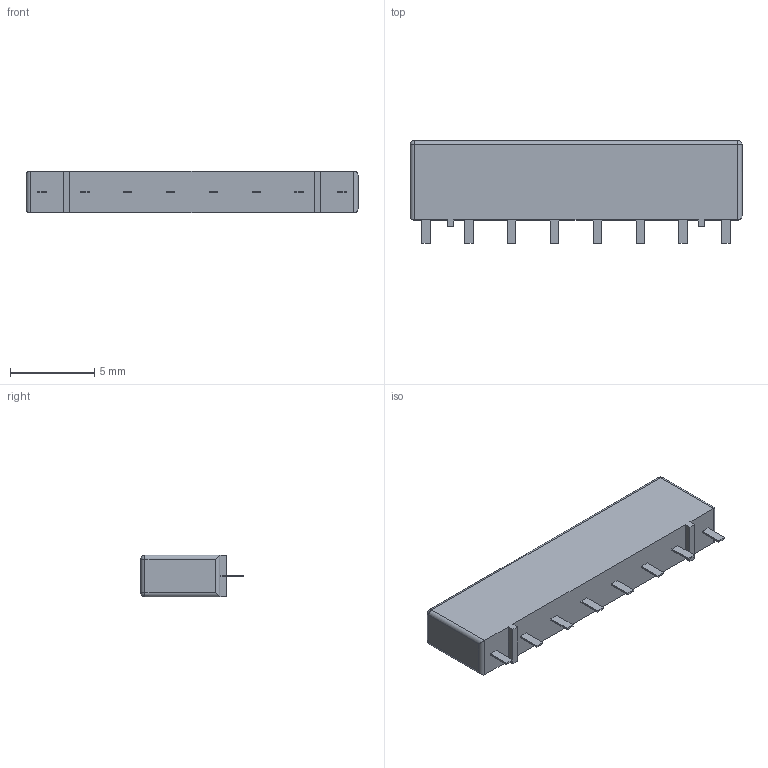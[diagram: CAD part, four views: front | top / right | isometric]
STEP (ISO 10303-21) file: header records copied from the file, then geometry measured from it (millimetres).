
FILE_DESCRIPTION (( 'STEP AP214' ), '1' );
FILE_NAME ( 'SIP249W50P254L1969H508Q8P.STEP', '2014-04-11T12:31:23', ( '' ), ( '' ), 'FPX Expert 2013', 'PCB Libraries', '' );
FILE_SCHEMA (( 'AUTOMOTIVE_DESIGN' ));
Length unit declared in the file: millimetre
Products named in the file (1): SIP249W50P254L1969H508Q8P
Bounding box: 19.69 x 6.08 x 2.49 mm (x, y, z)
Volume: 230.8 mm3; surface area: 317.5 mm2
Topology: 9 solids, 9 shells, 76 faces, 162 edges, 100 vertices
Faces by surface type: plane 62, cylinder 10, sphere 4
Entity records: 2290 total; most frequent: CARTESIAN_POINT 347, DIRECTION 320, ORIENTED_EDGE 316, EDGE_CURVE 158, VECTOR 142, LINE 142, VERTEX_POINT 100, AXIS2_PLACEMENT_3D 89
